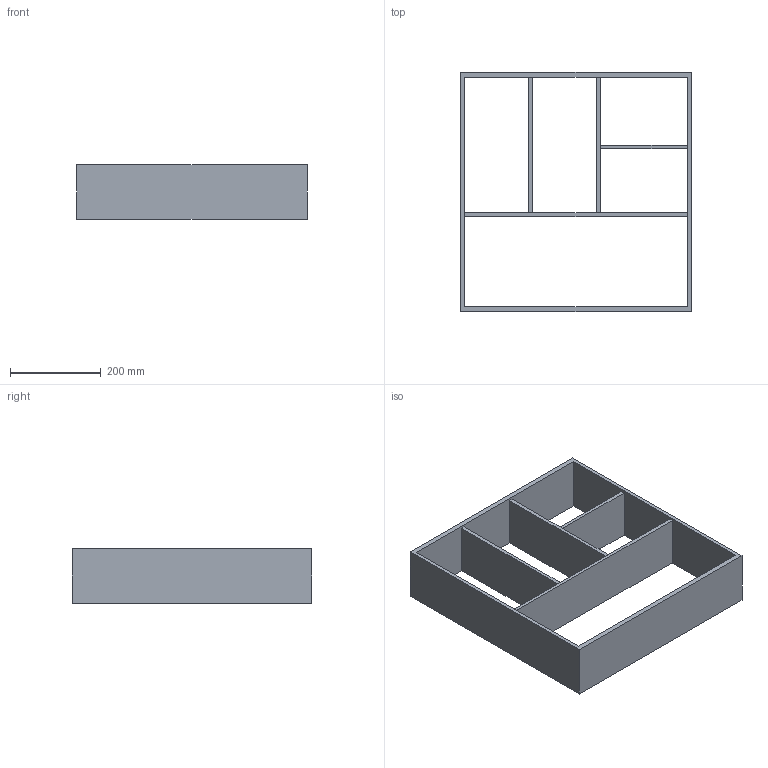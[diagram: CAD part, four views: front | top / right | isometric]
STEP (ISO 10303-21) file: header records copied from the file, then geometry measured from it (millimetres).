
FILE_DESCRIPTION (( 'STEP AP214' ), '1' );
FILE_NAME ('Vario Multi H120 NL550_B600_16 mm_Alu-Buche.step', '2010-10-08T09:47:39', ( 'grass' ), ( '' ), 'SwSTEP 2.0', 'SolidWorks 2010', '' );
FILE_SCHEMA (( 'AUTOMOTIVE_DESIGN' ));
Length unit declared in the file: millimetre
Products named in the file (1): Vario Multi H120 NL550_B600_16 mm_Alu-Buche
Bounding box: 508 x 529 x 120 mm (x, y, z)
Volume: 3484941.2 mm3; surface area: 833055 mm2
Topology: 1 solids, 1 shells, 29 faces, 80 edges, 52 vertices
Faces by surface type: plane 29
Entity records: 956 total; most frequent: CARTESIAN_POINT 162, ORIENTED_EDGE 160, DIRECTION 140, EDGE_CURVE 80, VECTOR 80, LINE 80, VERTEX_POINT 52, EDGE_LOOP 38
